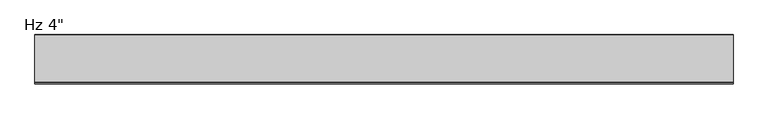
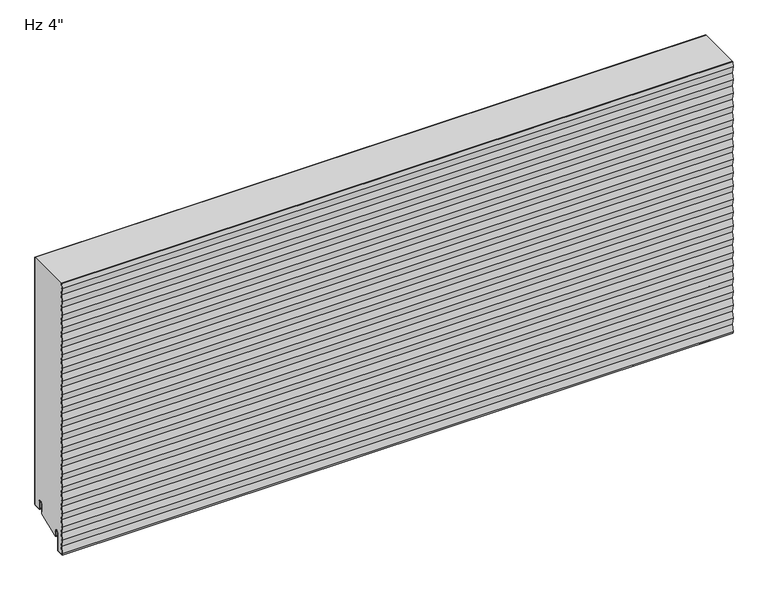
"""IFC4 building model written with IfcOpenShell, lengths in millimetres: plate geometry."""

from ifc_helpers import new_model, si_unit, point, frame, frame_2d, origin, place, context, project, spatial, polyline, circle_curve, trimmed, segment, composite_curve, outline, extrude, source, transform, mapped, element, save


def plate_7fbdcfde(model_context):
    return source(origin(), model_context, "Body", "SweptSolid", [
        extrude(outline(composite_curve([segment(trimmed(circle_curve(frame_2d((-21.43125, 19.05)), 4.96875), [point((-16.4625, 19.05))], [point((-26.4, 19.05))], True, "CARTESIAN"), True, "CONTINUOUS"), segment(polyline([(-26.4, 19.05), (-26.4, -3.1323422), (-74.6157227, -23.01875), (-76.2, -23.01875), (-76.2, -13.5080174), (-76.99375, -13.5080174), (-76.7875, -11.9205174)]), True, "CONTINUOUS"), segment(trimmed(circle_curve(frame_2d((-81.75625, -11.9205174)), 4.96875), [point((-76.7875, -11.9205174))], [point((-86.725, -11.9205174))], True, "CARTESIAN"), True, "CONTINUOUS"), segment(polyline([(-86.725, -11.9205174), (-86.725, -50.1038221)]), True, "CONTINUOUS"), segment(trimmed(circle_curve(frame_2d((-88.10625, -50.1038221)), 1.38125), [point((-86.725, -50.1038221))], [point((-88.033961, -51.4831791))], False, "CARTESIAN"), True, "CONTINUOUS"), segment(polyline([(-88.033961, -51.4831791), (-101.2062471, -52.1735094), (-101.7378194, -48.8511825), (-99.2994194, -33.6111825), (-101.7378194, -18.3711825), (-99.2994194, -3.1311825), (-101.7378194, 12.1088175), (-99.2994194, 27.3488175), (-101.7378194, 42.5888175), (-99.2994194, 57.8288175), (-101.7378194, 73.0688175), (-99.2994194, 88.3088175), (-101.7378194, 103.5488175), (-99.2994194, 118.7888175), (-101.7378194, 134.0288175), (-99.2994194, 149.2688175), (-101.7378194, 164.5088175), (-99.2994194, 179.7488175), (-101.7378194, 194.9888175), (-99.2994194, 210.2288175), (-101.7378194, 225.4688175), (-99.2994194, 240.7088175), (-101.7378194, 255.9488175), (-99.2994194, 271.1888175), (-101.7378194, 286.4288175), (-99.2994194, 301.6688175), (-101.7378194, 316.9088175), (-99.2994194, 332.1488175), (-101.7378194, 347.3888175), (-99.2994194, 362.6288175), (-101.7378194, 377.8688175), (-99.2994194, 393.1088175), (-101.7378194, 408.3488175), (-99.2994194, 423.5888175), (-101.7378194, 438.8288175), (-99.2994194, 454.0688175), (-101.7378194, 469.3088175), (-99.2994194, 484.5488175), (-101.7378194, 499.7888175), (-99.2994194, 515.0288175), (-101.7378194, 530.2688175), (-99.2994194, 545.5088175), (-101.7378194, 560.7488175), (-100.0656302, 571.2), (-1.0, 571.2), (-1.0, 3.175)]), True, "CONTINUOUS"), segment(trimmed(circle_curve(frame_2d((-2.38125, 3.175)), 1.38125), [point((-1.0, 3.175))], [point((-2.38125, 1.79375))], False, "CARTESIAN"), True, "CONTINUOUS"), segment(polyline([(-2.38125, 1.79375), (-15.08125, 1.79375)]), True, "CONTINUOUS"), segment(trimmed(circle_curve(frame_2d((-15.08125, 3.175)), 1.38125), [point((-15.08125, 1.79375))], [point((-16.4625, 3.175))], False, "CARTESIAN"), True, "CONTINUOUS"), segment(polyline([(-16.4625, 3.175), (-16.4625, 19.05)]), True, "CONTINUOUS")], self_intersect=False)), frame((-730.0, 0.0, 0.0), z_axis=(1.0, 0.0, 0.0), x_axis=(0.0, 1.0, 0.0)), (0.0, 0.0, 1.0), 1460.0),
        extrude(outline(composite_curve([segment(polyline([(-25.4, 0.79375), (-26.4, 0.79375), (-26.4, 19.05)]), True, "CONTINUOUS"), segment(trimmed(circle_curve(frame_2d((-21.43125, 19.05)), 4.96875), [point((-26.4, 19.05))], [point((-16.4625, 19.05))], False, "CARTESIAN"), True, "CONTINUOUS"), segment(polyline([(-16.4625, 19.05), (-16.4625, 3.175)]), True, "CONTINUOUS"), segment(trimmed(circle_curve(frame_2d((-15.08125, 3.175)), 1.38125), [point((-16.4625, 3.175))], [point((-15.08125, 1.79375))], True, "CARTESIAN"), True, "CONTINUOUS"), segment(polyline([(-15.08125, 1.79375), (-2.38125, 1.79375)]), True, "CONTINUOUS"), segment(trimmed(circle_curve(frame_2d((-2.38125, 3.175)), 1.38125), [point((-2.38125, 1.79375))], [point((-1.0, 3.175))], True, "CARTESIAN"), True, "CONTINUOUS"), segment(polyline([(-1.0, 3.175), (-1.0, 571.2), (0.0, 571.2), (0.0, 3.175)]), True, "CONTINUOUS"), segment(trimmed(circle_curve(frame_2d((-2.38125, 3.175)), 2.38125), [point((0.0, 3.175))], [point((-2.38125, 0.79375))], False, "CARTESIAN"), True, "CONTINUOUS"), segment(polyline([(-2.38125, 0.79375), (-15.08125, 0.79375)]), True, "CONTINUOUS"), segment(trimmed(circle_curve(frame_2d((-15.08125, 3.175)), 2.38125), [point((-15.08125, 0.79375))], [point((-17.4625, 3.175))], False, "CARTESIAN"), True, "CONTINUOUS"), segment(polyline([(-17.4625, 3.175), (-17.4625, 19.05)]), True, "CONTINUOUS"), segment(trimmed(circle_curve(frame_2d((-21.43125, 19.05)), 3.96875), [point((-17.4625, 19.05))], [point((-25.4, 19.05))], True, "CARTESIAN"), True, "CONTINUOUS"), segment(polyline([(-25.4, 19.05), (-25.4, 0.79375)]), True, "CONTINUOUS")], self_intersect=False)), frame((-730.0, 0.0, 0.0), z_axis=(1.0, 0.0, 0.0), x_axis=(0.0, 1.0, 0.0)), (0.0, 0.0, 1.0), 1460.0),
        extrude(outline(composite_curve([segment(trimmed(circle_curve(frame_2d((-76.99375, -23.2314549)), 0.79375), [point((-76.2, -23.2314549))], [point((-77.7875, -23.2314549))], False, "CARTESIAN"), True, "CONTINUOUS"), segment(polyline([(-77.7875, -23.2314549), (-77.7875, -11.9205174)]), True, "CONTINUOUS"), segment(trimmed(circle_curve(frame_2d((-81.75625, -11.9205174)), 3.96875), [point((-77.7875, -11.9205174))], [point((-85.725, -11.9205174))], True, "CARTESIAN"), True, "CONTINUOUS"), segment(polyline([(-85.725, -11.9205174), (-85.725, -50.1038221)]), True, "CONTINUOUS"), segment(trimmed(circle_curve(frame_2d((-88.10625, -50.1038221)), 2.38125), [point((-85.725, -50.1038221))], [point((-87.981625, -52.4818086))], False, "CARTESIAN"), True, "CONTINUOUS"), segment(polyline([(-87.981625, -52.4818086), (-102.1543553, -53.22457), (-102.8509395, -48.8709186), (-100.4125395, -33.6309186), (-102.8509395, -18.3909186), (-100.4125395, -3.1509186), (-102.8509395, 12.0890814), (-100.4125395, 27.3290814), (-102.8509395, 42.5690814), (-100.4125395, 57.8090814), (-102.8509395, 73.0490814), (-100.4125395, 88.2890814), (-102.8509395, 103.5290814), (-100.4125395, 118.7690814), (-102.8509395, 134.0090814), (-100.4125395, 149.2490814), (-102.8509395, 164.4890814), (-100.4125395, 179.7290814), (-102.8509395, 194.9690814), (-100.4125395, 210.2090814), (-102.8509395, 225.4490814), (-100.4125395, 240.6890814), (-102.8509395, 255.9290814), (-100.4125395, 271.1690814), (-102.8509395, 286.4090814), (-100.4125395, 301.6490814), (-102.8509395, 316.8890814), (-100.4125395, 332.1290814), (-102.8509395, 347.3690814), (-100.4125395, 362.6090814), (-102.8509395, 377.8490814), (-100.4125395, 393.0890814), (-102.8509395, 408.3290814), (-100.4125395, 423.5690814), (-102.8509395, 438.8090814), (-100.4125395, 454.0490814), (-102.8509395, 469.2890814), (-100.4125395, 484.5290814), (-102.8509395, 499.7690814), (-100.4125395, 515.0090814), (-102.8509395, 530.2490814), (-100.4125395, 545.4890814), (-102.8509395, 560.7290814), (-101.1755925, 571.2), (-100.1628734, 571.2), (-101.8382204, 560.7290814), (-99.3998204, 545.4890814), (-101.8382204, 530.2490814), (-99.3998204, 515.0090814), (-101.8382204, 499.7690814), (-99.3998204, 484.5290814), (-101.8382204, 469.2890814), (-99.3998204, 454.0490814), (-101.8382204, 438.8090814), (-99.3998204, 423.5690814), (-101.8382204, 408.3290814), (-99.3998204, 393.0890814), (-101.8382204, 377.8490814), (-99.3998204, 362.6090814), (-101.8382204, 347.3690814), (-99.3998204, 332.1290814), (-101.8382204, 316.8890814), (-99.3998204, 301.6490814), (-101.8382204, 286.4090814), (-99.3998204, 271.1690814), (-101.8382204, 255.9290814), (-99.3998204, 240.6890814), (-101.8382204, 225.4490814), (-99.3998204, 210.2090814), (-101.8382204, 194.9690814), (-99.3998204, 179.7290814), (-101.8382204, 164.4890814), (-99.3998204, 149.2490814), (-101.8382204, 134.0090814), (-99.3998204, 118.7690814), (-101.8382204, 103.5290814), (-99.3998204, 88.2890814), (-101.8382204, 73.0490814), (-99.3998204, 57.8090814), (-101.8382204, 42.5690814), (-99.3998204, 27.3290814), (-101.8382204, 12.0890814), (-99.3998204, -3.1509186), (-101.8382204, -18.3909186), (-99.3998204, -33.6309186), (-101.8382204, -48.8709186), (-101.3089447, -52.1788915), (-88.033961, -51.4831791)]), True, "CONTINUOUS"), segment(trimmed(circle_curve(frame_2d((-88.10625, -50.1038221)), 1.38125), [point((-88.033961, -51.4831791))], [point((-86.725, -50.1038221))], True, "CARTESIAN"), True, "CONTINUOUS"), segment(polyline([(-86.725, -50.1038221), (-86.725, -11.9205174)]), True, "CONTINUOUS"), segment(trimmed(circle_curve(frame_2d((-81.75625, -11.9205174)), 4.96875), [point((-86.725, -11.9205174))], [point((-76.7875, -11.9205174))], False, "CARTESIAN"), True, "CONTINUOUS"), segment(polyline([(-76.7875, -11.9205174), (-76.99375, -13.5080174), (-76.2, -13.5080174), (-76.2, -23.2314549)]), True, "CONTINUOUS")], self_intersect=False)), frame((-730.0, 0.0, 0.0), z_axis=(1.0, 0.0, 0.0), x_axis=(0.0, 1.0, 0.0)), (0.0, 0.0, 1.0), 1460.0),
    ])


if __name__ == "__main__":
    model = new_model("IFC4")
    model_context = context("Model", 3, world=origin())
    ifc_project = project(units=[si_unit("LENGTHUNIT", "METRE", prefix="MILLI")], contexts=[model_context])
    site = spatial("IfcSite", under=ifc_project)
    building = spatial("IfcBuilding", under=site)
    placement = place(None, origin())
    plate_shape = plate_7fbdcfde(model_context)
    element("IfcPlate", 1, ObjectType="KIP-36-DWHR-R19-CP-Hz-S : Hz 4\"", at=placement, inside=building, context=model_context, shape_type="MappedRepresentation", body=[
        mapped(plate_shape, transform((0.0, 0.0, 0.0), x_axis=(1.0, 0.0, 0.0), y_axis=(0.0, 1.0, 0.0), z_axis=(0.0, 0.0, 1.0))),
    ])
    save(model, "model.ifc")
